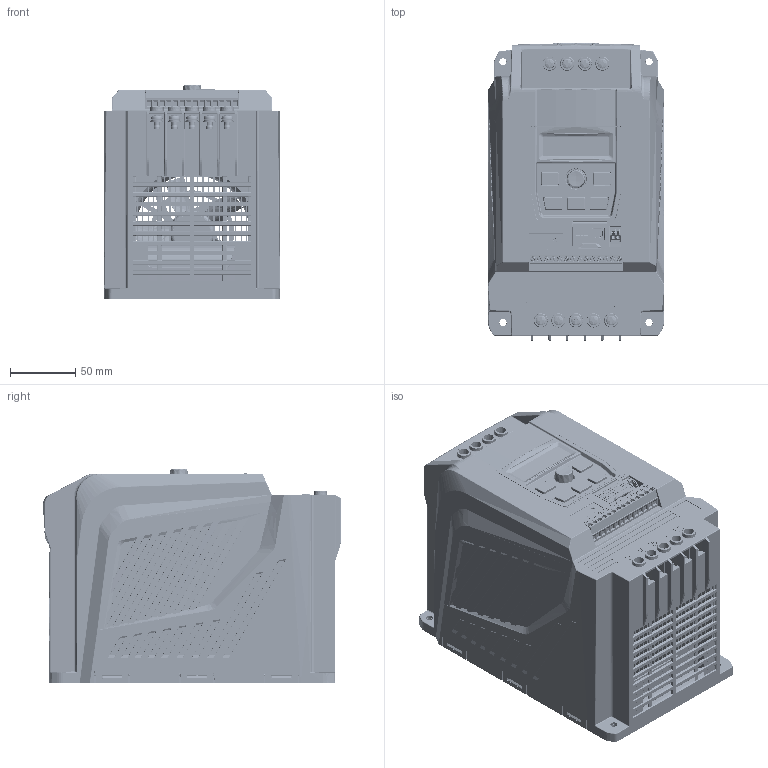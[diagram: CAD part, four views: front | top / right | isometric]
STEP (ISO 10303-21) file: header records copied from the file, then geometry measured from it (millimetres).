
FILE_DESCRIPTION(/* description */ (''),/* implementation_level */ '2;1');
FILE_NAME(/* name */ 'CA100-11A.stp',/* time_stamp */ '2024-05-29T18:45:18+08:00',/* author */ (''),/* organization */ (''),/* preprocessor_version */ 'ST-DEVELOPER v16',/* originating_system */ 'SIEMENS PLM Software NX 10.0',/* authorisation */ '');
FILE_SCHEMA (('AP203_CONFIGURATION_CONTROLLED_3D_DESIGN_OF_MECHANICAL_PARTS_AND_ASSEMBLIES_MIM_LF { 1 0 10303 403 2 1 2}'));
Products named in the file (1): it680830D68izq
Bounding box: 135 x 228 x 163.79 mm (x, y, z)
Volume: 1302413.7 mm3; surface area: 1153059.8 mm2
Topology: 40 solids, 54 shells, 12112 faces, 31665 edges, 20042 vertices
Faces by surface type: plane 5321, cylinder 2838, bspline 1872, extrusion 739, cone 639, torus 484, sphere 219
Full cylindrical faces by diameter (mm): 2 x4, 2.5 x8, 3 x6, 3.3 x5, 3.5 x4, 4 x3, 4.2 x2, 4.51 x1, 5 x1, 5.3 x1, 5.7 x1, 6.2 x2, 6.7 x1, 7.5 x5, 10 x9, 24.2 x4, 28.775 x4, 35 x4
Entity records: 445001 total; most frequent: CARTESIAN_POINT 156660, ORIENTED_EDGE 62458, DIRECTION 53850, EDGE_CURVE 31229, VERTEX_POINT 19938, AXIS2_PLACEMENT_3D 18339, VECTOR 17172, LINE 16433
